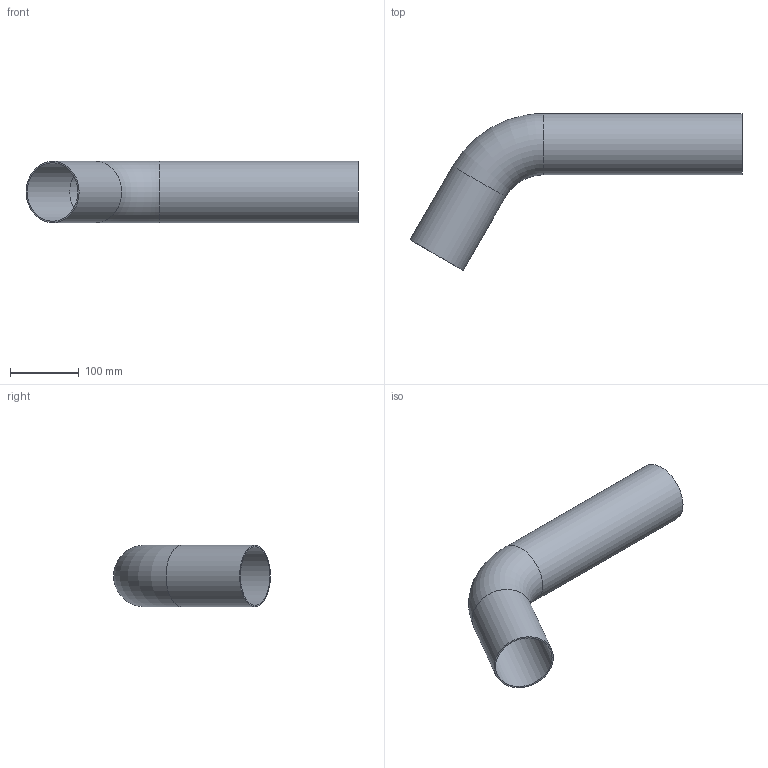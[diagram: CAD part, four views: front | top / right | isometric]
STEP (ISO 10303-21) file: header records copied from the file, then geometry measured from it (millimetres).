
FILE_DESCRIPTION((''),'2;1');
FILE_NAME('G:\Technics\CAD\Bauteile\089\6905889(0).stp','2008-03-10T15:34:34',('herberg'),(''),'Autodesk Inventor 2008','Autodesk Inventor 2008','');
FILE_SCHEMA(('AUTOMOTIVE_DESIGN { 1 0 10303 214 1 1 1 1 }'));
Length unit declared in the file: millimetre
Products named in the file (1): 6905889(0)
Bounding box: 481.24 x 227.32 x 88.9 mm (x, y, z)
Volume: 286048.4 mm3; surface area: 287140.4 mm2
Topology: 1 solids, 1 shells, 8 faces, 14 edges, 8 vertices
Faces by surface type: cylinder 4, torus 2, plane 2
Full cylindrical faces by diameter (mm): 84.9 x2, 88.9 x2
Entity records: 194 total; most frequent: DIRECTION 34, CARTESIAN_POINT 25, AXIS2_PLACEMENT_3D 17, ORIENTED_EDGE 16, EDGE_LOOP 16, VERTEX_POINT 8, CIRCLE 8, EDGE_CURVE 8
